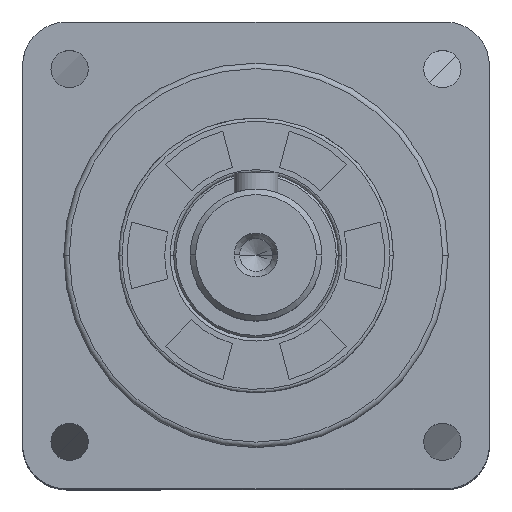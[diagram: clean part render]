
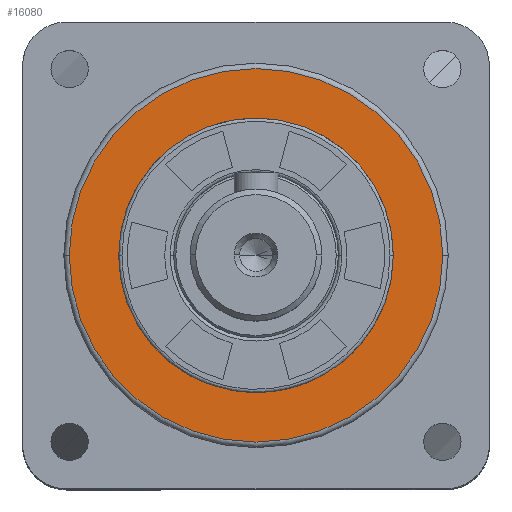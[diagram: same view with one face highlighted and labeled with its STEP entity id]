
A CAD part, top view. The second image highlights one B-rep face of the part: STEP entity #16080.
In plain terms, the highlighted planar face has unit normal (0, 0, 1).
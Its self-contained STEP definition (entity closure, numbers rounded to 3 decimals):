
#293 = AXIS2_PLACEMENT_3D ( 'NONE', #9410, #1637, #15654 ) ;
#399 = ORIENTED_EDGE ( 'NONE', *, *, #2170, .T. ) ;
#874 = EDGE_CURVE ( 'NONE', #17142, #6084, #12289, .T. ) ;
#1637 = DIRECTION ( 'NONE',  ( 0., 0., 1. ) ) ;
#2170 = EDGE_CURVE ( 'NONE', #5430, #23818, #11346, .T. ) ;
#3455 = EDGE_LOOP ( 'NONE', ( #8718, #399 ) ) ;
#3562 = DIRECTION ( 'NONE',  ( 1., 0., 0. ) ) ;
#3585 = CARTESIAN_POINT ( 'NONE',  ( 0., 0., 14.8 ) ) ;
#3805 = AXIS2_PLACEMENT_3D ( 'NONE', #24270, #14296, #24176 ) ;
#4190 = CARTESIAN_POINT ( 'NONE',  ( 17., 0., 14.8 ) ) ;
#4468 = ORIENTED_EDGE ( 'NONE', *, *, #874, .F. ) ;
#5430 = VERTEX_POINT ( 'NONE', #8855 ) ;
#5650 = EDGE_CURVE ( 'NONE', #6084, #17142, #10291, .T. ) ;
#6084 = VERTEX_POINT ( 'NONE', #16113 ) ;
#7742 = CARTESIAN_POINT ( 'NONE',  ( 0., 0., 14.8 ) ) ;
#8171 = EDGE_LOOP ( 'NONE', ( #20629, #4468 ) ) ;
#8175 = AXIS2_PLACEMENT_3D ( 'NONE', #3585, #9685, #21613 ) ;
#8718 = ORIENTED_EDGE ( 'NONE', *, *, #22280, .T. ) ;
#8855 = CARTESIAN_POINT ( 'NONE',  ( -17., 0., 14.8 ) ) ;
#9410 = CARTESIAN_POINT ( 'NONE',  ( 0., 0., 14.8 ) ) ;
#9685 = DIRECTION ( 'NONE',  ( 0., 0., 1. ) ) ;
#10206 = AXIS2_PLACEMENT_3D ( 'NONE', #19129, #19328, #11146 ) ;
#10230 = PLANE ( 'NONE',  #3805 ) ;
#10291 = CIRCLE ( 'NONE', #21251, 12.5 ) ;
#10703 = FACE_BOUND ( 'NONE', #8171, .T. ) ;
#11146 = DIRECTION ( 'NONE',  ( 1., 0., 0. ) ) ;
#11346 = CIRCLE ( 'NONE', #10206, 17. ) ;
#12289 = CIRCLE ( 'NONE', #8175, 12.5 ) ;
#14049 = CIRCLE ( 'NONE', #293, 17. ) ;
#14296 = DIRECTION ( 'NONE',  ( 0., 0., 1. ) ) ;
#15092 = CARTESIAN_POINT ( 'NONE',  ( -12.5, 0., 14.8 ) ) ;
#15654 = DIRECTION ( 'NONE',  ( 1., 0., 0. ) ) ;
#16080 = ADVANCED_FACE ( 'NONE', ( #10703, #25763 ), #10230, .T. ) ;
#16113 = CARTESIAN_POINT ( 'NONE',  ( 12.5, 0., 14.8 ) ) ;
#17142 = VERTEX_POINT ( 'NONE', #15092 ) ;
#19129 = CARTESIAN_POINT ( 'NONE',  ( 0., 0., 14.8 ) ) ;
#19328 = DIRECTION ( 'NONE',  ( 0., 0., 1. ) ) ;
#20629 = ORIENTED_EDGE ( 'NONE', *, *, #5650, .F. ) ;
#21251 = AXIS2_PLACEMENT_3D ( 'NONE', #7742, #25431, #3562 ) ;
#21613 = DIRECTION ( 'NONE',  ( 1., 0., 0. ) ) ;
#22280 = EDGE_CURVE ( 'NONE', #23818, #5430, #14049, .T. ) ;
#23818 = VERTEX_POINT ( 'NONE', #4190 ) ;
#24176 = DIRECTION ( 'NONE',  ( 1., 0., 0. ) ) ;
#24270 = CARTESIAN_POINT ( 'NONE',  ( 0., 0., 14.8 ) ) ;
#25431 = DIRECTION ( 'NONE',  ( 0., 0., 1. ) ) ;
#25763 = FACE_OUTER_BOUND ( 'NONE', #3455, .T. ) ;
